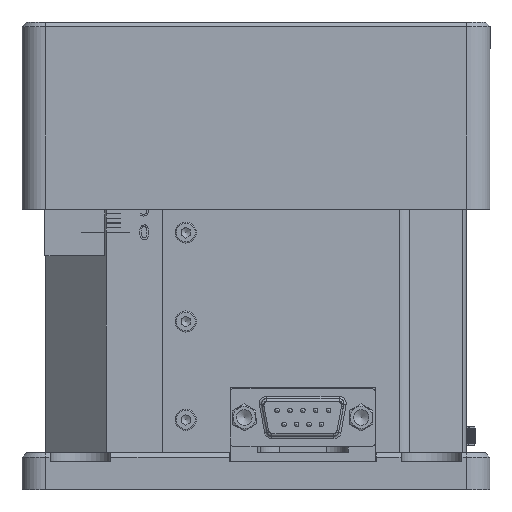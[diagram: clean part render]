
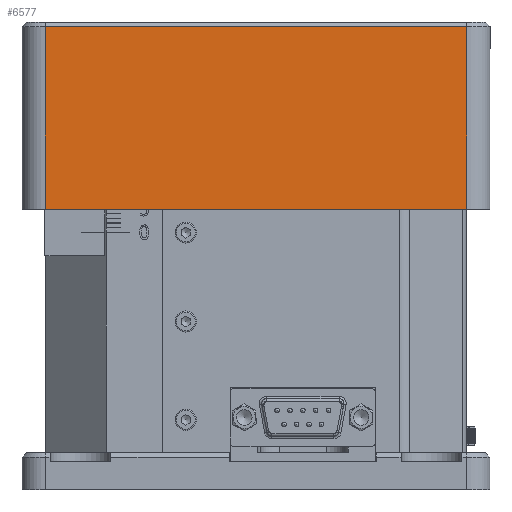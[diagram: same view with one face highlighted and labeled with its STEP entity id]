
A CAD part, left-side view. The second image highlights one B-rep face of the part: STEP entity #6577.
In plain terms, the highlighted planar face has unit normal (-1, 0, 0).
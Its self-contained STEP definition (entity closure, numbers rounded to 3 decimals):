
#4185=CARTESIAN_POINT('',(-34.364,4.991,98.5));
#4186=VERTEX_POINT('',#4185);
#4218=CARTESIAN_POINT('',(-34.364,94.991,98.5));
#4219=VERTEX_POINT('',#4218);
#4226=CARTESIAN_POINT('',(-34.364,94.991,98.5));
#4227=DIRECTION('',(0.0,-1.0,0.0));
#4228=VECTOR('',#4227,90.0);
#4229=LINE('',#4226,#4228);
#4230=EDGE_CURVE('',#4219,#4186,#4229,.T.);
#4344=CARTESIAN_POINT('',(-34.364,94.991,59.5));
#4345=VERTEX_POINT('',#4344);
#4353=CARTESIAN_POINT('',(-34.364,94.991,59.5));
#4354=DIRECTION('',(0.0,0.0,1.0));
#4355=VECTOR('',#4354,39.0);
#4356=LINE('',#4353,#4355);
#4357=EDGE_CURVE('',#4345,#4219,#4356,.T.);
#6535=CARTESIAN_POINT('',(-34.364,4.991,59.5));
#6536=VERTEX_POINT('',#6535);
#6537=CARTESIAN_POINT('',(-34.364,4.991,59.5));
#6538=DIRECTION('',(0.0,0.0,1.0));
#6539=VECTOR('',#6538,39.);
#6540=LINE('',#6537,#6539);
#6541=EDGE_CURVE('',#6536,#4186,#6540,.T.);
#6561=CARTESIAN_POINT('',(-34.364,4.991,59.5));
#6562=DIRECTION('',(-1.0,0.0,0.0));
#6563=DIRECTION('',(0.0,0.0,-1.0));
#6564=AXIS2_PLACEMENT_3D('',#6561,#6562,#6563);
#6565=PLANE('',#6564);
#6566=ORIENTED_EDGE('',*,*,#4230,.F.);
#6567=ORIENTED_EDGE('',*,*,#4357,.F.);
#6568=CARTESIAN_POINT('',(-34.364,4.991,59.5));
#6569=DIRECTION('',(0.0,1.0,0.0));
#6570=VECTOR('',#6569,90.0);
#6571=LINE('',#6568,#6570);
#6572=EDGE_CURVE('',#6536,#4345,#6571,.T.);
#6573=ORIENTED_EDGE('',*,*,#6572,.F.);
#6574=ORIENTED_EDGE('',*,*,#6541,.T.);
#6575=EDGE_LOOP('',(#6566,#6567,#6573,#6574));
#6576=FACE_OUTER_BOUND('',#6575,.T.);
#6577=ADVANCED_FACE('',(#6576),#6565,.T.);
